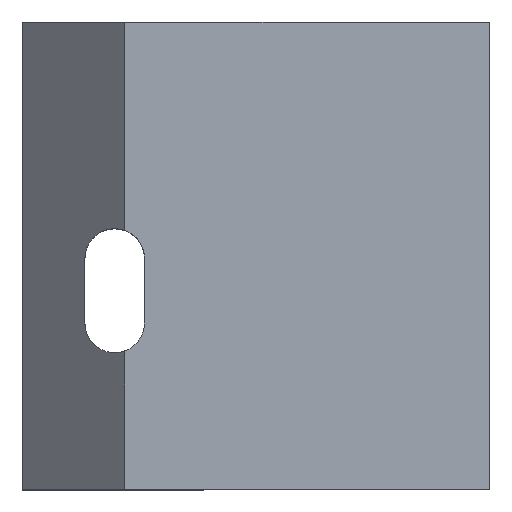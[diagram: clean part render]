
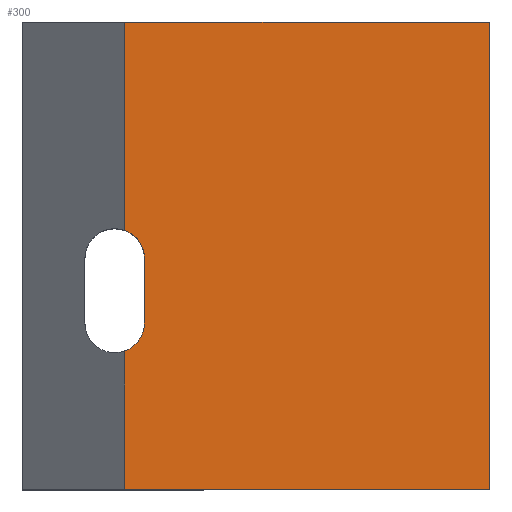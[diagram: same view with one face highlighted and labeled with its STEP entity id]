
A CAD part, top view. The second image highlights one B-rep face of the part: STEP entity #300.
In plain terms, the highlighted planar face has unit normal (0, 0, 1).
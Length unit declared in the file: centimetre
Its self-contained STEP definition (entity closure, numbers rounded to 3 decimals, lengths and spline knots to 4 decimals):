
#12 = LINE ( 'NONE', #1376, #2145 ) ;
#80 = VERTEX_POINT ( 'NONE', #705 ) ;
#91 = EDGE_CURVE ( 'NONE', #723, #1247, #610, .T. ) ;
#129 = CARTESIAN_POINT ( 'NONE',  ( 1000., 0., 1000. ) ) ;
#141 = DIRECTION ( 'NONE',  ( 0., 1., 0. ) ) ;
#204 = DIRECTION ( 'NONE',  ( 0., 0., 1. ) ) ;
#245 = PLANE ( 'NONE',  #2032 ) ;
#246 = CARTESIAN_POINT ( 'NONE',  ( 218.8262, 0., 1000. ) ) ;
#252 = DIRECTION ( 'NONE',  ( 1., 0., 0. ) ) ;
#300 = ADVANCED_FACE ( 'NONE', ( #1766 ), #245, .T. ) ;
#335 = CARTESIAN_POINT ( 'NONE',  ( 218.8262, 554.0815, 1000. ) ) ;
#363 = CARTESIAN_POINT ( 'NONE',  ( 197.501, 355.936, 1000. ) ) ;
#407 = CARTESIAN_POINT ( 'NONE',  ( 261.205, 355.936, 1000. ) ) ;
#420 = ORIENTED_EDGE ( 'NONE', *, *, #531, .T. ) ;
#456 = ORIENTED_EDGE ( 'NONE', *, *, #691, .T. ) ;
#459 = VECTOR ( 'NONE', #642, 100. ) ;
#485 = DIRECTION ( 'NONE',  ( 0., 0., 1. ) ) ;
#490 = ORIENTED_EDGE ( 'NONE', *, *, #91, .F. ) ;
#500 = EDGE_LOOP ( 'NONE', ( #490, #1372, #456, #420, #1354, #1025, #807, #1907 ) ) ;
#531 = EDGE_CURVE ( 'NONE', #1132, #1678, #12, .T. ) ;
#573 = VECTOR ( 'NONE', #252, 100. ) ;
#599 = LINE ( 'NONE', #246, #1635 ) ;
#610 = CIRCLE ( 'NONE', #712, 63.704 ) ;
#642 = DIRECTION ( 'NONE',  ( 0., -1., 0. ) ) ;
#651 = CIRCLE ( 'NONE', #1857, 63.704 ) ;
#662 = LINE ( 'NONE', #998, #1440 ) ;
#686 = VECTOR ( 'NONE', #1166, 100. ) ;
#691 = EDGE_CURVE ( 'NONE', #716, #1132, #1799, .T. ) ;
#705 = CARTESIAN_POINT ( 'NONE',  ( 261.205, 494.0528, 1000. ) ) ;
#712 = AXIS2_PLACEMENT_3D ( 'NONE', #363, #1579, #1445 ) ;
#716 = VERTEX_POINT ( 'NONE', #738 ) ;
#723 = VERTEX_POINT ( 'NONE', #2161 ) ;
#738 = CARTESIAN_POINT ( 'NONE',  ( 218.8262, 0., 1000. ) ) ;
#807 = ORIENTED_EDGE ( 'NONE', *, *, #1724, .F. ) ;
#815 = DIRECTION ( 'NONE',  ( 0., 1., 0. ) ) ;
#832 = CARTESIAN_POINT ( 'NONE',  ( 1000., 1000., 1000. ) ) ;
#986 = LINE ( 'NONE', #1682, #686 ) ;
#998 = CARTESIAN_POINT ( 'NONE',  ( 261.205, 494.0528, 1000. ) ) ;
#1025 = ORIENTED_EDGE ( 'NONE', *, *, #2091, .T. ) ;
#1132 = VERTEX_POINT ( 'NONE', #129 ) ;
#1166 = DIRECTION ( 'NONE',  ( -1., 0., 0. ) ) ;
#1247 = VERTEX_POINT ( 'NONE', #407 ) ;
#1341 = EDGE_CURVE ( 'NONE', #1247, #80, #662, .T. ) ;
#1354 = ORIENTED_EDGE ( 'NONE', *, *, #1653, .T. ) ;
#1364 = EDGE_CURVE ( 'NONE', #723, #716, #2213, .T. ) ;
#1372 = ORIENTED_EDGE ( 'NONE', *, *, #1364, .T. ) ;
#1376 = CARTESIAN_POINT ( 'NONE',  ( 1000., 1000., 1000. ) ) ;
#1403 = DIRECTION ( 'NONE',  ( 1., 0., 0. ) ) ;
#1415 = DIRECTION ( 'NONE',  ( 0., -1., 0. ) ) ;
#1440 = VECTOR ( 'NONE', #815, 100. ) ;
#1445 = DIRECTION ( 'NONE',  ( -1., 0., 0. ) ) ;
#1521 = CARTESIAN_POINT ( 'NONE',  ( 197.501, 494.0528, 1000. ) ) ;
#1579 = DIRECTION ( 'NONE',  ( 0., 0., 1. ) ) ;
#1625 = CARTESIAN_POINT ( 'NONE',  ( 0., 0., 1000. ) ) ;
#1635 = VECTOR ( 'NONE', #1415, 100. ) ;
#1653 = EDGE_CURVE ( 'NONE', #1678, #1933, #986, .T. ) ;
#1678 = VERTEX_POINT ( 'NONE', #832 ) ;
#1682 = CARTESIAN_POINT ( 'NONE',  ( 0., 1000., 1000. ) ) ;
#1706 = DIRECTION ( 'NONE',  ( -1., 0., 0. ) ) ;
#1724 = EDGE_CURVE ( 'NONE', #80, #1763, #651, .T. ) ;
#1763 = VERTEX_POINT ( 'NONE', #335 ) ;
#1766 = FACE_OUTER_BOUND ( 'NONE', #500, .T. ) ;
#1799 = LINE ( 'NONE', #1625, #573 ) ;
#1857 = AXIS2_PLACEMENT_3D ( 'NONE', #1521, #485, #1706 ) ;
#1907 = ORIENTED_EDGE ( 'NONE', *, *, #1341, .F. ) ;
#1933 = VERTEX_POINT ( 'NONE', #1988 ) ;
#1952 = CARTESIAN_POINT ( 'NONE',  ( 0., 0., 1000. ) ) ;
#1988 = CARTESIAN_POINT ( 'NONE',  ( 218.8262, 1000., 1000. ) ) ;
#2032 = AXIS2_PLACEMENT_3D ( 'NONE', #1952, #204, #1403 ) ;
#2091 = EDGE_CURVE ( 'NONE', #1933, #1763, #599, .T. ) ;
#2145 = VECTOR ( 'NONE', #141, 100. ) ;
#2161 = CARTESIAN_POINT ( 'NONE',  ( 218.8262, 295.9074, 1000. ) ) ;
#2202 = CARTESIAN_POINT ( 'NONE',  ( 218.8262, 0., 1000. ) ) ;
#2213 = LINE ( 'NONE', #2202, #459 ) ;
